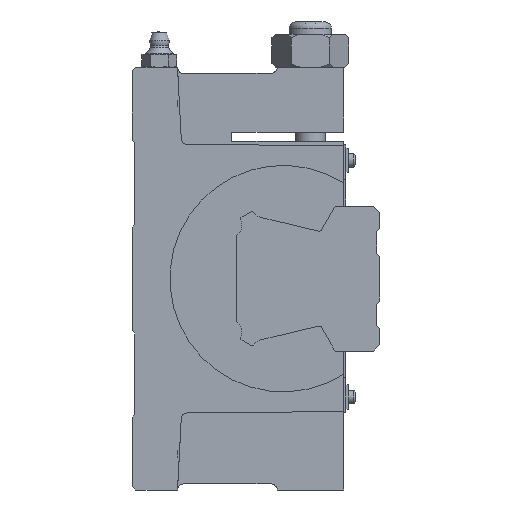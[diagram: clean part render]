
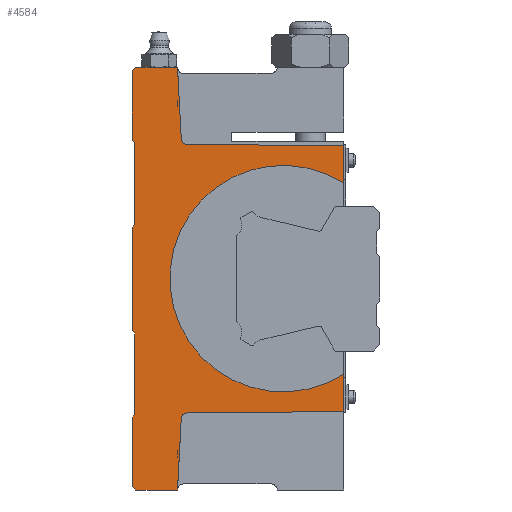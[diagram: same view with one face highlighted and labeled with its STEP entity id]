
A CAD part, left-side view. The second image highlights one B-rep face of the part: STEP entity #4584.
In plain terms, the highlighted planar face has unit normal (-1, 0, 0).
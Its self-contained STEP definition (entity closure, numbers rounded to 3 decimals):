
#280=CIRCLE('',#4940,2.);
#282=CIRCLE('',#4945,2.);
#292=CIRCLE('',#4980,37.5);
#1009=ORIENTED_EDGE('',*,*,#2071,.F.);
#1010=ORIENTED_EDGE('',*,*,#1858,.F.);
#1011=ORIENTED_EDGE('',*,*,#1996,.F.);
#1012=ORIENTED_EDGE('',*,*,#1995,.T.);
#1013=ORIENTED_EDGE('',*,*,#2016,.F.);
#1014=ORIENTED_EDGE('',*,*,#2008,.F.);
#1015=ORIENTED_EDGE('',*,*,#2003,.F.);
#1016=ORIENTED_EDGE('',*,*,#2068,.F.);
#1017=ORIENTED_EDGE('',*,*,#2063,.F.);
#1018=ORIENTED_EDGE('',*,*,#2060,.F.);
#1019=ORIENTED_EDGE('',*,*,#2057,.F.);
#1020=ORIENTED_EDGE('',*,*,#2054,.F.);
#1021=ORIENTED_EDGE('',*,*,#2051,.F.);
#1022=ORIENTED_EDGE('',*,*,#2048,.F.);
#1023=ORIENTED_EDGE('',*,*,#2045,.F.);
#1024=ORIENTED_EDGE('',*,*,#2042,.F.);
#1025=ORIENTED_EDGE('',*,*,#2037,.F.);
#1026=ORIENTED_EDGE('',*,*,#2034,.F.);
#1027=ORIENTED_EDGE('',*,*,#2031,.F.);
#1028=ORIENTED_EDGE('',*,*,#2002,.T.);
#1029=ORIENTED_EDGE('',*,*,#1998,.F.);
#1030=ORIENTED_EDGE('',*,*,#1895,.F.);
#1858=EDGE_CURVE('',#2458,#2459,#2869,.T.);
#1895=EDGE_CURVE('',#2490,#2492,#2900,.T.);
#1995=EDGE_CURVE('',#2558,#2559,#280,.T.);
#1996=EDGE_CURVE('',#2558,#2458,#2980,.T.);
#1998=EDGE_CURVE('',#2492,#2561,#2982,.T.);
#2002=EDGE_CURVE('',#2563,#2561,#282,.T.);
#2003=EDGE_CURVE('',#2564,#2565,#2985,.T.);
#2008=EDGE_CURVE('',#2565,#2569,#2989,.T.);
#2016=EDGE_CURVE('',#2569,#2559,#2995,.T.);
#2031=EDGE_CURVE('',#2563,#2583,#3005,.T.);
#2034=EDGE_CURVE('',#2583,#2585,#3008,.T.);
#2037=EDGE_CURVE('',#2585,#2587,#3011,.T.);
#2042=EDGE_CURVE('',#2587,#2591,#3014,.T.);
#2045=EDGE_CURVE('',#2591,#2593,#3017,.T.);
#2048=EDGE_CURVE('',#2593,#2595,#3020,.T.);
#2051=EDGE_CURVE('',#2595,#2597,#3023,.T.);
#2054=EDGE_CURVE('',#2597,#2599,#3026,.T.);
#2057=EDGE_CURVE('',#2599,#2601,#3029,.T.);
#2060=EDGE_CURVE('',#2601,#2603,#3032,.T.);
#2063=EDGE_CURVE('',#2603,#2605,#3035,.T.);
#2068=EDGE_CURVE('',#2605,#2564,#3038,.T.);
#2071=EDGE_CURVE('',#2459,#2490,#292,.F.);
#2458=VERTEX_POINT('',#6983);
#2459=VERTEX_POINT('',#6985);
#2490=VERTEX_POINT('',#7055);
#2492=VERTEX_POINT('',#7058);
#2558=VERTEX_POINT('',#7247);
#2559=VERTEX_POINT('',#7249);
#2561=VERTEX_POINT('',#7257);
#2563=VERTEX_POINT('',#7262);
#2564=VERTEX_POINT('',#7267);
#2565=VERTEX_POINT('',#7268);
#2569=VERTEX_POINT('',#7278);
#2583=VERTEX_POINT('',#7321);
#2585=VERTEX_POINT('',#7327);
#2587=VERTEX_POINT('',#7333);
#2591=VERTEX_POINT('',#7343);
#2593=VERTEX_POINT('',#7349);
#2595=VERTEX_POINT('',#7355);
#2597=VERTEX_POINT('',#7361);
#2599=VERTEX_POINT('',#7367);
#2601=VERTEX_POINT('',#7373);
#2603=VERTEX_POINT('',#7379);
#2605=VERTEX_POINT('',#7385);
#2869=LINE('',#6984,#3297);
#2900=LINE('',#7057,#3328);
#2980=LINE('',#7252,#3408);
#2982=LINE('',#7256,#3410);
#2985=LINE('',#7266,#3413);
#2989=LINE('',#7277,#3417);
#2995=LINE('',#7291,#3423);
#3005=LINE('',#7320,#3433);
#3008=LINE('',#7326,#3436);
#3011=LINE('',#7332,#3439);
#3014=LINE('',#7342,#3442);
#3017=LINE('',#7348,#3445);
#3020=LINE('',#7354,#3448);
#3023=LINE('',#7360,#3451);
#3026=LINE('',#7366,#3454);
#3029=LINE('',#7372,#3457);
#3032=LINE('',#7378,#3460);
#3035=LINE('',#7384,#3463);
#3038=LINE('',#7394,#3466);
#3297=VECTOR('',#5594,1000.);
#3328=VECTOR('',#5643,1000.);
#3408=VECTOR('',#5817,1000.);
#3410=VECTOR('',#5821,1000.);
#3413=VECTOR('',#5832,1000.);
#3417=VECTOR('',#5840,1000.);
#3423=VECTOR('',#5852,1000.);
#3433=VECTOR('',#5882,1000.);
#3436=VECTOR('',#5887,1000.);
#3439=VECTOR('',#5892,1000.);
#3442=VECTOR('',#5901,1000.);
#3445=VECTOR('',#5906,1000.);
#3448=VECTOR('',#5911,1000.);
#3451=VECTOR('',#5916,1000.);
#3454=VECTOR('',#5921,1000.);
#3457=VECTOR('',#5926,1000.);
#3460=VECTOR('',#5931,1000.);
#3463=VECTOR('',#5936,1000.);
#3466=VECTOR('',#5945,1000.);
#3762=EDGE_LOOP('',(#1009,#1010,#1011,#1012,#1013,#1014,#1015,#1016,#1017,
#1018,#1019,#1020,#1021,#1022,#1023,#1024,#1025,#1026,#1027,#1028,#1029,
#1030));
#4114=FACE_BOUND('',#3762,.T.);
#4370=PLANE('',#4979);
#4584=ADVANCED_FACE('',(#4114),#4370,.F.);
#4940=AXIS2_PLACEMENT_3D('',#7250,#5813,#5814);
#4945=AXIS2_PLACEMENT_3D('',#7264,#5828,#5829);
#4979=AXIS2_PLACEMENT_3D('',#7398,#5951,#5952);
#4980=AXIS2_PLACEMENT_3D('',#7399,#5953,#5954);
#5594=DIRECTION('',(0.,0.,-1.));
#5643=DIRECTION('',(0.,0.,-1.));
#5813=DIRECTION('',(1.,0.,0.));
#5814=DIRECTION('',(0.,0.,-1.));
#5817=DIRECTION('',(0.,-1.,-0.009));
#5821=DIRECTION('',(0.,1.,-0.009));
#5828=DIRECTION('',(1.,0.,0.));
#5829=DIRECTION('',(0.,0.,-1.));
#5832=DIRECTION('',(0.,-0.707,0.707));
#5840=DIRECTION('',(0.,-1.,0.));
#5852=DIRECTION('',(0.,-0.052,-0.999));
#5882=DIRECTION('',(0.,0.052,-0.999));
#5887=DIRECTION('',(0.,1.,0.));
#5892=DIRECTION('',(0.,0.707,0.707));
#5901=DIRECTION('',(0.,0.,1.));
#5906=DIRECTION('',(0.,-0.707,0.707));
#5911=DIRECTION('',(0.,0.,1.));
#5916=DIRECTION('',(0.,0.707,0.707));
#5921=DIRECTION('',(0.,0.,1.));
#5926=DIRECTION('',(0.,-0.707,0.707));
#5931=DIRECTION('',(0.,0.,1.));
#5936=DIRECTION('',(0.,0.707,0.707));
#5945=DIRECTION('',(0.,0.,1.));
#5951=DIRECTION('',(1.,0.,0.));
#5952=DIRECTION('',(0.,0.,-1.));
#5953=DIRECTION('',(1.,0.,0.));
#5954=DIRECTION('',(0.,0.,-1.));
#6983=CARTESIAN_POINT('',(-61.5,4.,44.017));
#6984=CARTESIAN_POINT('',(-61.5,4.,44.017));
#6985=CARTESIAN_POINT('',(-61.5,4.,31.721));
#7055=CARTESIAN_POINT('',(-61.5,4.,-31.721));
#7057=CARTESIAN_POINT('',(-61.5,4.,44.017));
#7058=CARTESIAN_POINT('',(-61.5,4.,-44.017));
#7247=CARTESIAN_POINT('',(-61.5,55.782,44.472));
#7249=CARTESIAN_POINT('',(-61.5,57.761,46.367));
#7250=CARTESIAN_POINT('',(-61.5,55.764,46.472));
#7252=CARTESIAN_POINT('',(-61.5,55.782,44.472));
#7256=CARTESIAN_POINT('',(-61.5,4.,-44.017));
#7257=CARTESIAN_POINT('',(-61.5,55.782,-44.472));
#7262=CARTESIAN_POINT('',(-61.5,57.761,-46.367));
#7264=CARTESIAN_POINT('',(-61.5,55.764,-46.472));
#7266=CARTESIAN_POINT('',(-61.5,74.,68.8));
#7267=CARTESIAN_POINT('',(-61.5,74.,68.8));
#7268=CARTESIAN_POINT('',(-61.5,72.8,70.));
#7277=CARTESIAN_POINT('',(-61.5,72.8,70.));
#7278=CARTESIAN_POINT('',(-61.5,59.,70.));
#7291=CARTESIAN_POINT('',(-61.5,59.,70.));
#7320=CARTESIAN_POINT('',(-61.5,57.761,-46.367));
#7321=CARTESIAN_POINT('',(-61.5,59.,-70.));
#7326=CARTESIAN_POINT('',(-61.5,59.,-70.));
#7327=CARTESIAN_POINT('',(-61.5,72.8,-70.));
#7332=CARTESIAN_POINT('',(-61.5,72.8,-70.));
#7333=CARTESIAN_POINT('',(-61.5,74.,-68.8));
#7342=CARTESIAN_POINT('',(-61.5,74.,-68.8));
#7343=CARTESIAN_POINT('',(-61.5,74.,-45.9));
#7348=CARTESIAN_POINT('',(-61.5,74.,-45.9));
#7349=CARTESIAN_POINT('',(-61.5,73.1,-45.));
#7354=CARTESIAN_POINT('',(-61.5,73.1,-45.));
#7355=CARTESIAN_POINT('',(-61.5,73.1,-18.));
#7360=CARTESIAN_POINT('',(-61.5,73.1,-18.));
#7361=CARTESIAN_POINT('',(-61.5,74.,-17.1));
#7366=CARTESIAN_POINT('',(-61.5,74.,-17.1));
#7367=CARTESIAN_POINT('',(-61.5,74.,17.1));
#7372=CARTESIAN_POINT('',(-61.5,74.,17.1));
#7373=CARTESIAN_POINT('',(-61.5,73.1,18.));
#7378=CARTESIAN_POINT('',(-61.5,73.1,18.));
#7379=CARTESIAN_POINT('',(-61.5,73.1,45.));
#7384=CARTESIAN_POINT('',(-61.5,73.1,45.));
#7385=CARTESIAN_POINT('',(-61.5,74.,45.9));
#7394=CARTESIAN_POINT('',(-61.5,74.,45.9));
#7398=CARTESIAN_POINT('',(-61.5,55.764,46.472));
#7399=CARTESIAN_POINT('',(-61.5,24.,0.));
